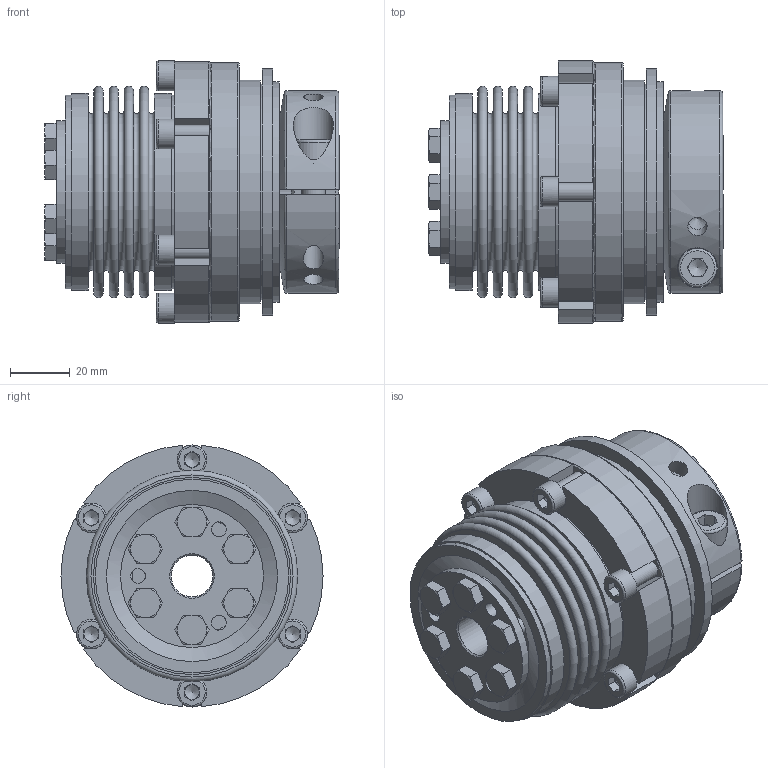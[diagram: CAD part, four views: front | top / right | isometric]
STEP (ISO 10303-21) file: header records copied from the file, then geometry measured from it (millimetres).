
FILE_DESCRIPTION( ( 'Unknown' ), '1' );
FILE_NAME( 'F:/JAKOB-STEP+IGES-Dateien/STEP-Dateien/SKB-KS/SKB-KS 150.stp', 'Unknown', ( 'Unknown' ), ( 'Unknown' ), 'PSStep 10.1', 'Unknown', ' ' );
FILE_SCHEMA( ( 'AUTOMOTIVE_DESIGN { 1 0 10303 214 1 1 1 1 }' ) );
Length unit declared in the file: millimetre
Products named in the file (1): kt101732-oa10
Bounding box: 99 x 88 x 88 mm (x, y, z)
Volume: 279563.4 mm3; surface area: 122100.3 mm2
Topology: 1 solids, 3 shells, 586 faces, 1576 edges, 1011 vertices
Faces by surface type: plane 295, cylinder 116, torus 88, cone 72, sphere 15
Full cylindrical faces by diameter (mm): 2 x2, 4.2 x1, 5 x16, 6 x12, 6.4 x6, 6.5 x3, 6.8 x1, 8 x1, 8.5 x1, 8.7 x6, 10 x6, 13 x1, 13.5 x1, 14 x1, 24 x1, 28.5 x1, 31 x1, 42.5 x1, 44 x1, 44.8 x1, 45 x2, 46 x1, 46.1 x1, 48 x1, 49 x1, 50 x1, 52.3 x2, 56 x1, 60.8 x2, 65 x2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
Entity records: 23388 total; most frequent: CARTESIAN_POINT 5390, DIRECTION 2760, ORIENTED_EDGE 2556, EDGE_CURVE 1278, AXIS2_PLACEMENT_3D 1151, VERTEX_POINT 895, EDGE_LOOP 858, FACE_OUTER_BOUND 706
